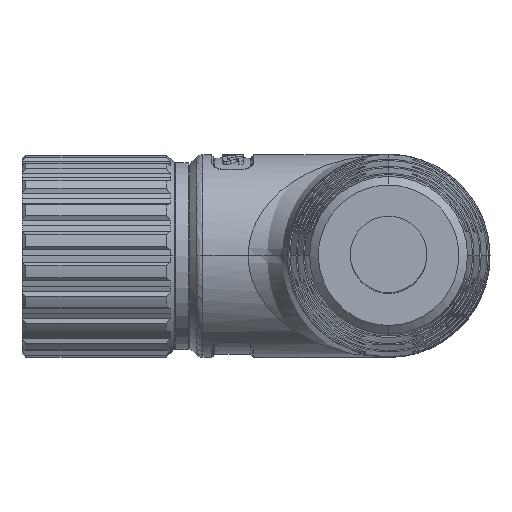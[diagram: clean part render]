
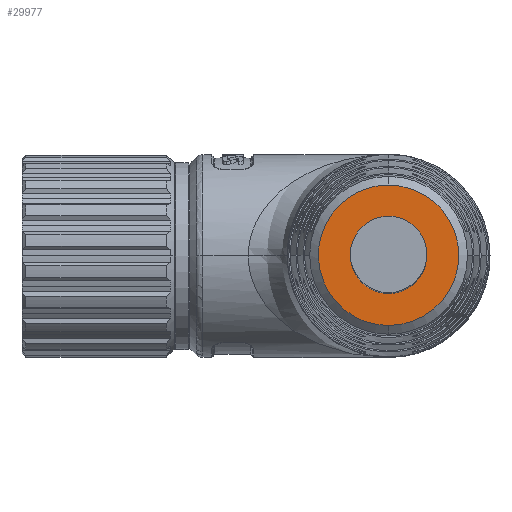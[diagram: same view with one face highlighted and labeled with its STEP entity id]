
A CAD part, top view. The second image highlights one B-rep face of the part: STEP entity #29977.
In plain terms, the highlighted planar face has unit normal (0, 0, 1).
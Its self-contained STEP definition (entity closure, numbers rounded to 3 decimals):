
#268 = CARTESIAN_POINT ( 'NONE',  ( 22.014, 7.153, 57.999 ) ) ;
#485 = CARTESIAN_POINT ( 'NONE',  ( 25.163, 8.708, 57.998 ) ) ;
#1127 = CARTESIAN_POINT ( 'NONE',  ( 18.788, 2.346, 58. ) ) ;
#2371 = EDGE_CURVE ( 'NONE', #36837, #26764, #18056, .T. ) ;
#3024 = EDGE_CURVE ( 'NONE', #36837, #26764, #38278, .T. ) ;
#3740 = CARTESIAN_POINT ( 'NONE',  ( 20.182, -5.236, 58.001 ) ) ;
#3951 = CIRCLE ( 'NONE', #13658, 4.9 ) ;
#3961 = CARTESIAN_POINT ( 'NONE',  ( 20.732, 5.951, 57.999 ) ) ;
#4186 = CARTESIAN_POINT ( 'NONE',  ( 25.166, -8.7, 58.002 ) ) ;
#5110 = DIRECTION ( 'NONE',  ( 0., 0., 1. ) ) ;
#6036 = DIRECTION ( 'NONE',  ( 0., 1., 0. ) ) ;
#6239 = DIRECTION ( 'NONE',  ( 0., 1., 0. ) ) ;
#6627 = DIRECTION ( 'NONE',  ( 0., 0., -1. ) ) ;
#7013 = CARTESIAN_POINT ( 'NONE',  ( 24.593, -8.526, 58.002 ) ) ;
#7152 = EDGE_CURVE ( 'NONE', #30028, #40041, #3951, .T. ) ;
#7434 = CARTESIAN_POINT ( 'NONE',  ( 18.558, 1.192, 58. ) ) ;
#8051 = CARTESIAN_POINT ( 'NONE',  ( 26.906, 9.012, 57.998 ) ) ;
#8812 = AXIS2_PLACEMENT_3D ( 'NONE', #25601, #9038, #6239 ) ;
#9038 = DIRECTION ( 'NONE',  ( 0., 0., -1. ) ) ;
#10044 = CARTESIAN_POINT ( 'NONE',  ( 20.358, 5.496, 57.999 ) ) ;
#10254 = CARTESIAN_POINT ( 'NONE',  ( 24.597, 8.536, 57.998 ) ) ;
#10476 = CARTESIAN_POINT ( 'NONE',  ( 19.688, -4.497, 58.001 ) ) ;
#10688 = CARTESIAN_POINT ( 'NONE',  ( 20.359, -5.474, 58.001 ) ) ;
#12464 = ORIENTED_EDGE ( 'NONE', *, *, #16023, .T. ) ;
#12821 = ORIENTED_EDGE ( 'NONE', *, *, #7152, .T. ) ;
#13147 = CARTESIAN_POINT ( 'NONE',  ( 18.14, 9.372, 57.998 ) ) ;
#13527 = CARTESIAN_POINT ( 'NONE',  ( 19.075, -3.167, 58.001 ) ) ;
#13658 = AXIS2_PLACEMENT_3D ( 'NONE', #20549, #20768, #6036 ) ;
#13742 = CARTESIAN_POINT ( 'NONE',  ( 25.452, 8.781, 57.998 ) ) ;
#14380 = CARTESIAN_POINT ( 'NONE',  ( 19.412, 4.003, 57.999 ) ) ;
#15165 = CARTESIAN_POINT ( 'NONE',  ( 27.5, -8.988, 58.002 ) ) ;
#16023 = EDGE_CURVE ( 'NONE', #40041, #30028, #34551, .T. ) ;
#16688 = EDGE_LOOP ( 'NONE', ( #12821, #12464 ) ) ;
#16794 = CARTESIAN_POINT ( 'NONE',  ( 21.561, -6.757, 58.001 ) ) ;
#17011 = CARTESIAN_POINT ( 'NONE',  ( 21.56, 6.779, 57.999 ) ) ;
#17226 = CARTESIAN_POINT ( 'NONE',  ( 21.126, 6.386, 57.999 ) ) ;
#17438 = CARTESIAN_POINT ( 'NONE',  ( 22.992, -7.8, 58.002 ) ) ;
#17647 = CARTESIAN_POINT ( 'NONE',  ( 18.5, 0.606, 58. ) ) ;
#18056 = CIRCLE ( 'NONE', #27127, 9. ) ;
#20066 = CARTESIAN_POINT ( 'NONE',  ( 18.962, 2.919, 57.999 ) ) ;
#20287 = CARTESIAN_POINT ( 'NONE',  ( 18.804, -2.325, 58. ) ) ;
#20508 = CARTESIAN_POINT ( 'NONE',  ( 18.976, -2.891, 58.001 ) ) ;
#20549 = CARTESIAN_POINT ( 'NONE',  ( 27.5, 0.012, 58. ) ) ;
#20731 = CARTESIAN_POINT ( 'NONE',  ( 23.509, -8.076, 58.002 ) ) ;
#20768 = DIRECTION ( 'NONE',  ( 0., 0., -1. ) ) ;
#20932 = ORIENTED_EDGE ( 'NONE', *, *, #2371, .T. ) ;
#21039 = AXIS2_PLACEMENT_3D ( 'NONE', #13147, #6627, #33149 ) ;
#24012 = CARTESIAN_POINT ( 'NONE',  ( 26.32, -8.93, 58.002 ) ) ;
#24037 = ORIENTED_EDGE ( 'NONE', *, *, #3024, .F. ) ;
#24216 = CARTESIAN_POINT ( 'NONE',  ( 27.5, -8.988, 58.002 ) ) ;
#24887 = CARTESIAN_POINT ( 'NONE',  ( 27.5, 9.012, 57.998 ) ) ;
#25601 = CARTESIAN_POINT ( 'NONE',  ( 27.5, 0.012, 58. ) ) ;
#26549 = CARTESIAN_POINT ( 'NONE',  ( 27.5, 4.912, 57.999 ) ) ;
#26764 = VERTEX_POINT ( 'NONE', #24887 ) ;
#26821 = CARTESIAN_POINT ( 'NONE',  ( 22.252, 7.33, 57.998 ) ) ;
#27034 = CARTESIAN_POINT ( 'NONE',  ( 26.906, -8.988, 58.002 ) ) ;
#27127 = AXIS2_PLACEMENT_3D ( 'NONE', #35571, #5110, #38622 ) ;
#27463 = CARTESIAN_POINT ( 'NONE',  ( 21.126, -6.362, 58.001 ) ) ;
#29698 = FACE_BOUND ( 'NONE', #16688, .T. ) ;
#29977 = ADVANCED_FACE ( 'NONE', ( #29698, #42993 ), #36431, .F. ) ;
#30028 = VERTEX_POINT ( 'NONE', #32593 ) ;
#30069 = CARTESIAN_POINT ( 'NONE',  ( 19.688, 4.52, 57.999 ) ) ;
#30286 = CARTESIAN_POINT ( 'NONE',  ( 22.991, 7.824, 57.998 ) ) ;
#30503 = CARTESIAN_POINT ( 'NONE',  ( 26.32, 8.954, 57.998 ) ) ;
#30932 = CARTESIAN_POINT ( 'NONE',  ( 22.255, -7.308, 58.002 ) ) ;
#32593 = CARTESIAN_POINT ( 'NONE',  ( 27.5, -4.888, 58.001 ) ) ;
#33149 = DIRECTION ( 'NONE',  ( 1., 0., 0. ) ) ;
#33545 = CARTESIAN_POINT ( 'NONE',  ( 18.731, -2.036, 58. ) ) ;
#33768 = CARTESIAN_POINT ( 'NONE',  ( 18.5, -0.582, 58. ) ) ;
#34193 = CARTESIAN_POINT ( 'NONE',  ( 22.016, -7.13, 58.001 ) ) ;
#34551 = CIRCLE ( 'NONE', #8812, 4.9 ) ;
#35571 = CARTESIAN_POINT ( 'NONE',  ( 27.5, 0.012, 58. ) ) ;
#36431 = PLANE ( 'NONE',  #21039 ) ;
#36837 = VERTEX_POINT ( 'NONE', #15165 ) ;
#37480 = CARTESIAN_POINT ( 'NONE',  ( 18.558, -1.168, 58. ) ) ;
#38093 = CARTESIAN_POINT ( 'NONE',  ( 27.5, 9.012, 57.998 ) ) ;
#38278 = B_SPLINE_CURVE_WITH_KNOTS ( 'NONE', 3,
 ( #24216, #27034, #24012, #4186, #7013, #20731, #17438, #30932, #34193, #16794, #27463, #40522, #10688, #3740, #10476, #40734, #13527, #20508, #20287, #33545, #37480, #33768, #17647, #7434, #1127, #20066, #14380, #30069, #39874, #10044, #3961, #17226, #17011, #268, #26821, #30286, #40314, #40095, #10254, #485, #13742, #30503, #8051, #38093 ),
 .UNSPECIFIED., .F., .F.,
 ( 4, 2, 2, 2, 2, 1, 2, 2, 2, 2, 2, 2, 2, 2, 2, 2, 1, 2, 2, 2, 2, 2, 4 ),
 ( -0.014, -0.012, -0.011, -0.009, -0.008, -0.007, -0.006, -0.005, -0.004, -0.003, -0.002, 0., 0.002, 0.004, 0.005, 0.006, 0.007, 0.008, 0.009, 0.011, 0.011, 0.012, 0.014 ),
 .UNSPECIFIED. ) ;
#38622 = DIRECTION ( 'NONE',  ( 0., 1., 0. ) ) ;
#39442 = EDGE_LOOP ( 'NONE', ( #24037, #20932 ) ) ;
#39874 = CARTESIAN_POINT ( 'NONE',  ( 20.18, 5.256, 57.999 ) ) ;
#40041 = VERTEX_POINT ( 'NONE', #26549 ) ;
#40095 = CARTESIAN_POINT ( 'NONE',  ( 24.321, 8.437, 57.998 ) ) ;
#40314 = CARTESIAN_POINT ( 'NONE',  ( 23.508, 8.1, 57.998 ) ) ;
#40522 = CARTESIAN_POINT ( 'NONE',  ( 20.732, -5.928, 58.001 ) ) ;
#40734 = CARTESIAN_POINT ( 'NONE',  ( 19.412, -3.98, 58.001 ) ) ;
#42993 = FACE_OUTER_BOUND ( 'NONE', #39442, .T. ) ;
